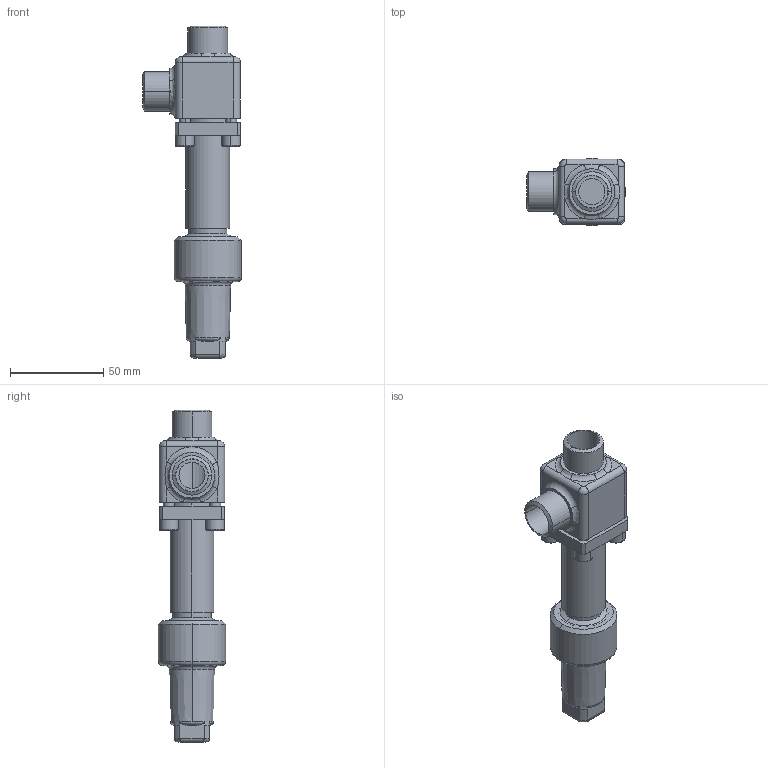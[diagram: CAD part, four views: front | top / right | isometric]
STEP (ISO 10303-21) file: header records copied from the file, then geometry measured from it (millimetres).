
FILE_DESCRIPTION (( 'STEP AP214' ), '1' );
FILE_NAME ('AVR96410-DN015_R1_PS40.STEP', '2006-05-02T08:11:30', ( 'Herr Grams' ), ( 'AWP GmbH' ), 'SwSTEP 2.0', 'SolidWorks 2002296', '' );
FILE_SCHEMA (( 'AUTOMOTIVE_DESIGN' ));
Length unit declared in the file: millimetre
Products named in the file (6): AVR96410-DN015_R1_PS40; Gehäuse96400E10-DN15_PS40_R1_Standard; AVR96310E10_Deck+Schr-DN6-15_Standard; Zylinderschraube-DIN912_M 6x 18; Deckel96310E10-DN6-15_PS40_Standard; Kappe96300E10_DN6-20_Standard
Assembly tree (8 placements, depth 3):
  AVR96410-DN015_R1_PS40
    Kappe96300E10_DN6-20_Standard
    Gehäuse96400E10-DN15_PS40_R1_Standard
    AVR96310E10_Deck+Schr-DN6-15_Standard
      Zylinderschraube-DIN912_M 6x 18  x4
      Deckel96310E10-DN6-15_PS40_Standard
Bounding box: 53 x 36 x 178 mm (x, y, z)
Volume: 102749 mm3; surface area: 35822.2 mm2
Topology: 7 solids, 7 shells, 230 faces, 509 edges, 314 vertices
Faces by surface type: cylinder 84, plane 83, torus 34, cone 22, bspline 7
Entity records: 10064 total; most frequent: CARTESIAN_POINT 5357, DIRECTION 929, ORIENTED_EDGE 790, EDGE_CURVE 395, AXIS2_PLACEMENT_3D 391, VERTEX_POINT 242, CIRCLE 210, EDGE_LOOP 203
